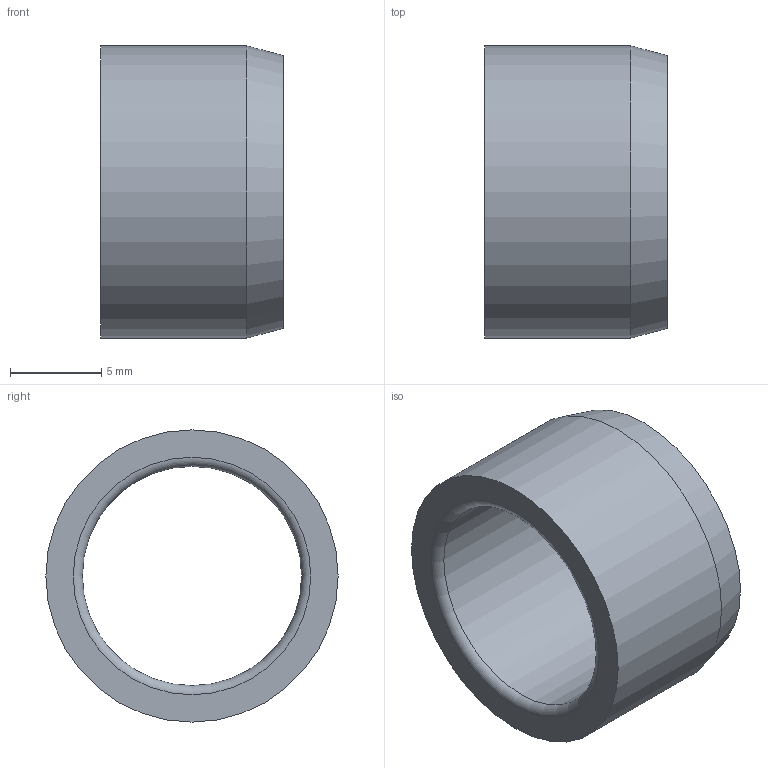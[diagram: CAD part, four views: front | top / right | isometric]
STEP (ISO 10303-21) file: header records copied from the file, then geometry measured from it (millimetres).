
FILE_DESCRIPTION(/* description */ ('Impex Ready, www.impex-ready.pl'),/* implementation_level */ '2;1');
FILE_NAME(/* name */ 'C:\Users\VIKKY\Nextcloud\SM\projekt 10 - części na stronę internetową\Pliki_3D_new\306 Tuleje BG04\306_BG04_STEP\BG04.121610.ipt.step',/* time_stamp */ '2021-12-17T16:27:57+01:00',/* author */ ('SM'),/* organization */ (''),/* preprocessor_version */ 'ST-DEVELOPER v18.1',/* originating_system */ 'Autodesk Inventor 2021',/* authorisation */ '');
FILE_SCHEMA (('AUTOMOTIVE_DESIGN { 1 0 10303 214 3 1 1 }'));
Length unit declared in the file: millimetre
Products named in the file (1): BG04.121610
Bounding box: 10 x 16 x 16 mm (x, y, z)
Volume: 849.2 mm3; surface area: 1013.6 mm2
Topology: 1 solids, 1 shells, 7 faces, 14 edges, 9 vertices
Faces by surface type: torus 2, cylinder 2, plane 2, cone 1
Full cylindrical faces by diameter (mm): 12 x1, 16 x1
Entity records: 261 total; most frequent: DIRECTION 41, CARTESIAN_POINT 31, ORIENTED_EDGE 28, AXIS2_PLACEMENT_3D 19, EDGE_CURVE 14, CIRCLE 11, EDGE_LOOP 9, VERTEX_POINT 9
